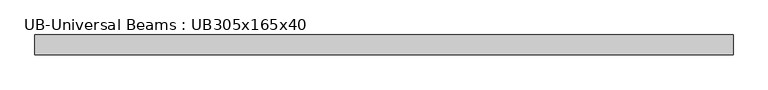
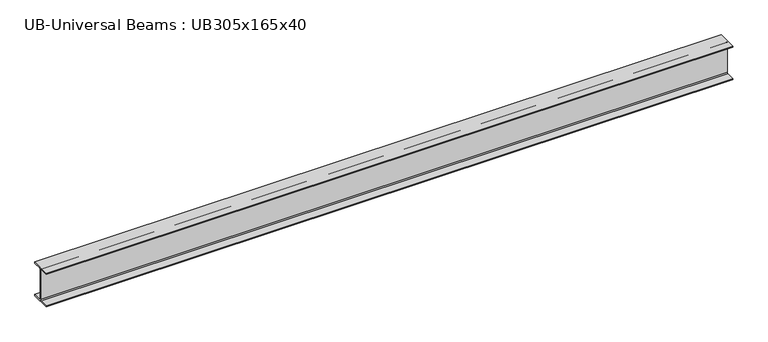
"""IFC4 building model written with IfcOpenShell, lengths in millimetres: beam geometry, UB-Universal Beams : UB305x165x40."""

from ifc_helpers import new_model, si_unit, point, frame, frame_2d, origin, place, context, project, spatial, polyline, circle_curve, trimmed, segment, composite_curve, outline, extrude, source, transform, mapped, element, save


def ub_universal_beams_ub305x165x40_099205f2(model_context):
    return source(origin(), model_context, "Body", "SweptSolid", [
        extrude(outline(composite_curve([segment(polyline([(82.5, -141.5), (82.5, -151.7), (-82.5, -151.7), (-82.5, -141.5), (-11.9, -141.5)]), True, "CONTINUOUS"), segment(trimmed(circle_curve(frame_2d((-11.9, -132.6)), 8.9), [point((-11.9, -141.5))], [point((-3.0, -132.6))], True, "CARTESIAN"), True, "CONTINUOUS"), segment(polyline([(-3.0, -132.6), (-3.0, 132.6)]), True, "CONTINUOUS"), segment(trimmed(circle_curve(frame_2d((-11.9, 132.6)), 8.9), [point((-3.0, 132.6))], [point((-11.9, 141.5))], True, "CARTESIAN"), True, "CONTINUOUS"), segment(polyline([(-11.9, 141.5), (-82.5, 141.5), (-82.5, 151.7), (82.5, 151.7), (82.5, 141.5), (11.9, 141.5)]), True, "CONTINUOUS"), segment(trimmed(circle_curve(frame_2d((11.9, 132.6)), 8.9), [point((11.9, 141.5))], [point((3.0, 132.6))], True, "CARTESIAN"), True, "CONTINUOUS"), segment(polyline([(3.0, 132.6), (3.0, -132.6)]), True, "CONTINUOUS"), segment(trimmed(circle_curve(frame_2d((11.9, -132.6)), 8.9), [point((3.0, -132.6))], [point((11.9, -141.5))], True, "CARTESIAN"), True, "CONTINUOUS"), segment(polyline([(11.9, -141.5), (82.5, -141.5)]), True, "CONTINUOUS")], self_intersect=False)), frame((-3084.95, 0.0, 0.0), z_axis=(1.0, 0.0, 0.0), x_axis=(0.0, 1.0, 0.0)), (0.0, 0.0, 1.0), 5849.2),
    ])


if __name__ == "__main__":
    model = new_model("IFC4")
    model_context = context("Model", 3, world=origin())
    ifc_project = project(units=[si_unit("LENGTHUNIT", "METRE", prefix="MILLI")], contexts=[model_context])
    site = spatial("IfcSite", under=ifc_project)
    building = spatial("IfcBuilding", under=site)
    placement = place(None, origin())
    ub_universal_beams_ub305x165x40_shape = ub_universal_beams_ub305x165x40_099205f2(model_context)
    element("IfcBeam", 1, ObjectType="UB-Universal Beams : UB305x165x40", at=placement, inside=building, context=model_context, shape_type="MappedRepresentation", body=[
        mapped(ub_universal_beams_ub305x165x40_shape, transform((0.0, 0.0, 0.0), x_axis=(1.0, 0.0, 0.0), y_axis=(0.0, 1.0, 0.0), z_axis=(0.0, 0.0, 1.0))),
    ])
    save(model, "model.ifc")
